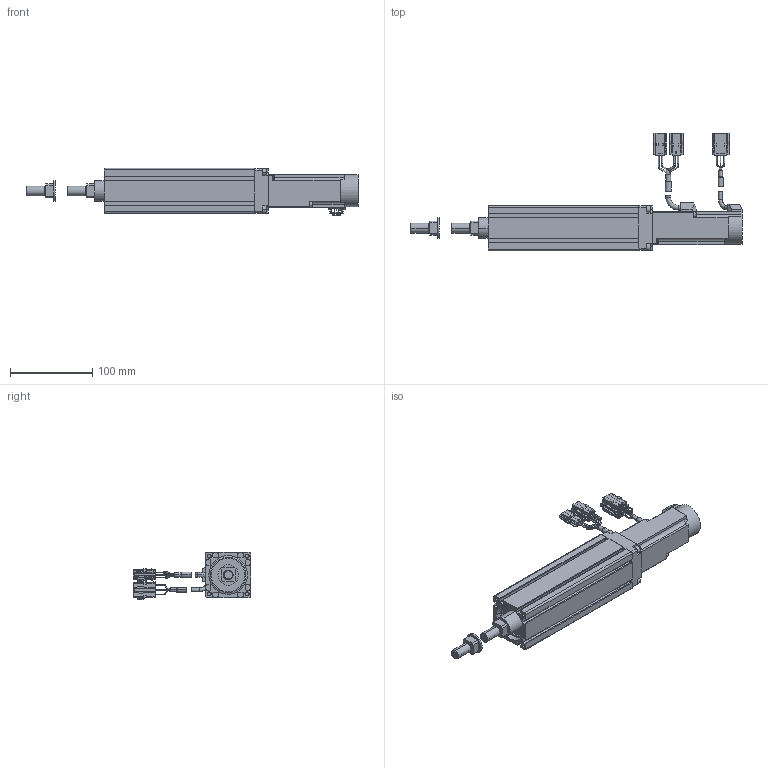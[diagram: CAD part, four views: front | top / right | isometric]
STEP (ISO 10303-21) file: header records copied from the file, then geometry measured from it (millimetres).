
FILE_DESCRIPTION((''),'2;1');
FILE_NAME('BET5E-ST-C_B-05_IGS_PRT','2017-06-18T',(' '),(''),'PRO/ENGINEER BY PARAMETRIC TECHNOLOGY CORPORATION, 2015030','PRO/ENGINEER BY PARAMETRIC TECHNOLOGY CORPORATION, 2015030','');
FILE_SCHEMA(('CONFIG_CONTROL_DESIGN'));
Length unit declared in the file: millimetre
Products named in the file (1): BET5E-ST-C_B-05_IGS_PRT
Bounding box: 404.1 x 142.99 x 57.56 mm (x, y, z)
Volume: 556104 mm3; surface area: 156967.5 mm2
Topology: 8 solids, 34 shells, 986 faces, 2601 edges, 1691 vertices
Faces by surface type: plane 649, cylinder 251, torus 62, cone 20, sphere 4
Entity records: 30645 total; most frequent: CARTESIAN_POINT 5620, DIRECTION 5197, ORIENTED_EDGE 5130, EDGE_CURVE 2593, VECTOR 1879, LINE 1879, VERTEX_POINT 1691, AXIS2_PLACEMENT_3D 1659
